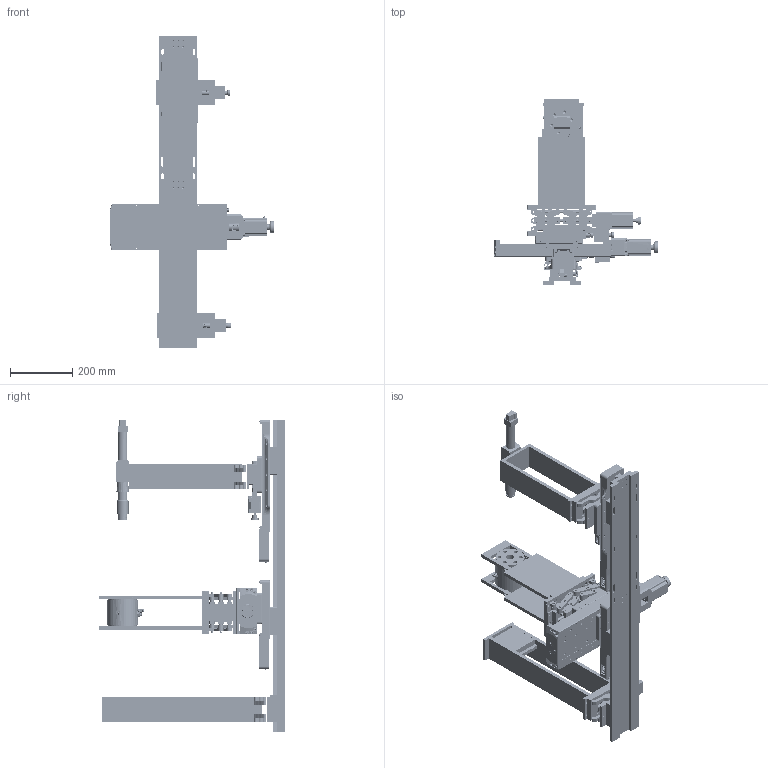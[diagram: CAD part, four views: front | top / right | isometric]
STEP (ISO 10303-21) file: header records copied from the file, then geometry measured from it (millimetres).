
FILE_DESCRIPTION (( 'STEP AP203' ), '1' );
FILE_NAME ('賑寢蚾饜极.STEP', '2026-06-05T02:54:27', ( '' ), ( '' ), 'SwSTEP 2.0', 'SolidWorks 2024', '' );
FILE_SCHEMA (( 'CONFIG_CONTROL_DESIGN' ));
Length unit declared in the file: millimetre
Products named in the file (58): ______-5.STEP.STEP; 侧板固定; _________1.STEP; ____-6.STEP.STEP; 支撑侧板; ____-2.STEP.STEP; 蓝宝石窗片.STEP.STEP; LO-ALX150_x150行程; K-2电动120升降台.STEP.STEP; ____-8.STEP.STEP; 底板固定; 燕尾导轨; ______-9.STEP.STEP; ______.STEP.STEP; _____1.STEP.STEP; K-2电动120升降台; 高温高压池装配(1).STEP; ____-0.STEP; 支撑镜头侧板; 紫铜密封圈.STEP.STEP; 镜头; K-2电动角位台15度65台面(1) .STEP; 42________.STEP; 规定柱子; 高温高压池腔体.STEP.STEP; ____-1.STEP; 57________.STEP.STEP; 高温高压池装配(1); ____-3.STEP.STEP; K-2电动120升降台.STEP; LO-ALN200_行程200; 转接板; ____-6_1.STEP; 74度卡套接头.STEP.STEP; _______1.STEP; 滑台2; 支撑顶板链接镜头; ______-7.STEP; 样品台; 支撑顶板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
Assembly tree (110 placements, depth 6):
  滑轨装配体
    燕尾导轨
    滑台2  x3
    LO-ALX150_x150行程
    K-2电动120升降台
      K-2电动120升降台.STEP
        K-2电动120升降台.STEP.STEP
          _____1.STEP.STEP
          ______.STEP.STEP  x8
          ______-0.STEP.STEP  x4
          ______-1.STEP.STEP  x16
          ____-2.STEP.STEP  x2
          ____-3.STEP.STEP  x2
          ____-4.STEP.STEP  x2
          ______-5.STEP.STEP
          ____-6.STEP.STEP  x6
          ____-7.STEP.STEP
          ____-8.STEP.STEP
          ______-9.STEP.STEP
          57________.STEP.STEP
    样品台
      底板固定
      侧板固定  x2
      高温高压池装配(1)
        高温高压池装配(1).STEP
          高温高压池装配(1).STEP.STEP
            高温高压池腔体.STEP.STEP
            窗片压环.STEP.STEP  x2
            紫铜密封圈.STEP.STEP  x2
            蓝宝石窗片.STEP.STEP  x2
            74度卡套接头.STEP.STEP  x4
      规定柱子  x4
      固定上柱子  x2
    镜头
    板支撑件
    接收板
    K-1电动升降台60行程  x2
    转接板  x2
    支撑顶板
    支撑顶板链接镜头
    K-2电动角位台15度65台面(1)
      K-2电动角位台15度65台面(1) .STEP
        _____2.STEP
        _________1.STEP
        ____-0.STEP  x4
        ____-1.STEP
        ________-2_1.STEP
        _______1.STEP
        ____-3_1.STEP
        ________-4.STEP
        ______-5_1.STEP
        42________.STEP
        ____-6_1.STEP
        ______-7.STEP
    LO-ALN200_行程200
    LO-ALN50_行程50
    支撑镜头侧板  x2
    支撑侧板  x2
Bounding box: 527.1 x 597.5 x 1003 mm (x, y, z)
Volume: 9145993.9 mm3; surface area: 2797030.9 mm2
Topology: 99 solids, 264 shells, 10529 faces, 28380 edges, 18891 vertices
Faces by surface type: plane 6189, cylinder 3184, bspline 623, cone 415, torus 102, sphere 16
Full cylindrical faces by diameter (mm): 25 x1
Entity records: 355556 total; most frequent: CARTESIAN_POINT 154968, ORIENTED_EDGE 42710, DIRECTION 31151, EDGE_CURVE 22557, VERTEX_POINT 15246, LINE 11011, VECTOR 11011, EDGE_LOOP 10450
